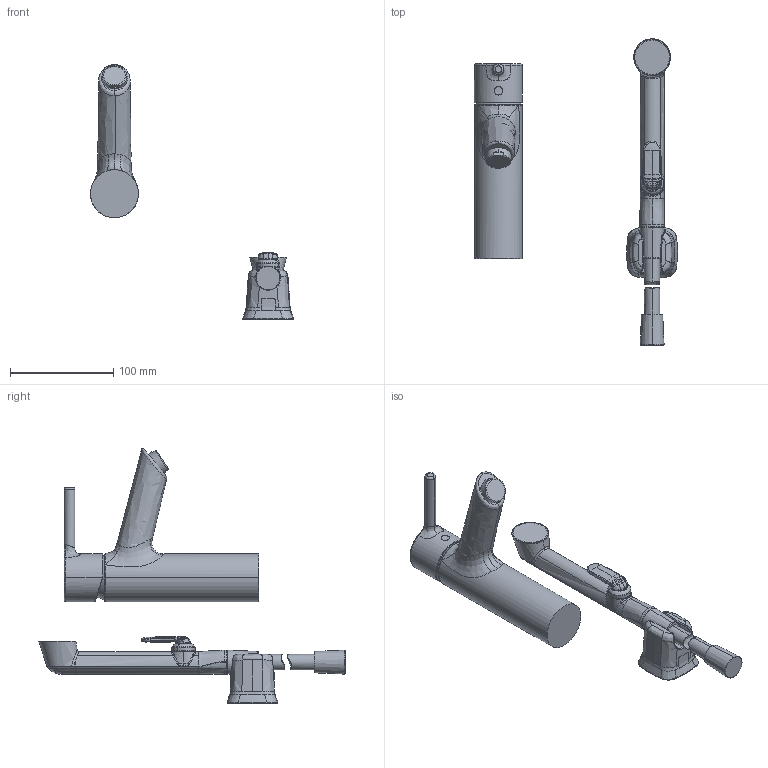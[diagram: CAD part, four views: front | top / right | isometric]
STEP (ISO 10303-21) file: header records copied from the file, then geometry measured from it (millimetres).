
FILE_DESCRIPTION (( 'STEP AP203' ), '1' );
FILE_NAME ('2606AF-33(2023)+2606AF-105-33(2023).STEP', '2023-05-08T10:37:27', ( '' ), ( '' ), 'SwSTEP 2.0', 'SolidWorks 2016', '' );
FILE_SCHEMA (( 'CONFIG_CONTROL_DESIGN' ));
Length unit declared in the file: millimetre
Products named in the file (1): 2606AF-33(2023)+2606AF-105-33(2023)
Bounding box: 196.81 x 296.68 x 246.88 mm (x, y, z)
Volume: 594513.1 mm3; surface area: 87263.6 mm2
Topology: 10 solids, 10 shells, 334 faces, 814 edges, 501 vertices
Faces by surface type: bspline 251, plane 26, cone 25, cylinder 24, torus 8
Entity records: 72041 total; most frequent: CARTESIAN_POINT 66232, ORIENTED_EDGE 1620, EDGE_CURVE 810, DIRECTION 587, VERTEX_POINT 501, B_SPLINE_CURVE_WITH_KNOTS 444, EDGE_LOOP 339, FACE_OUTER_BOUND 334
